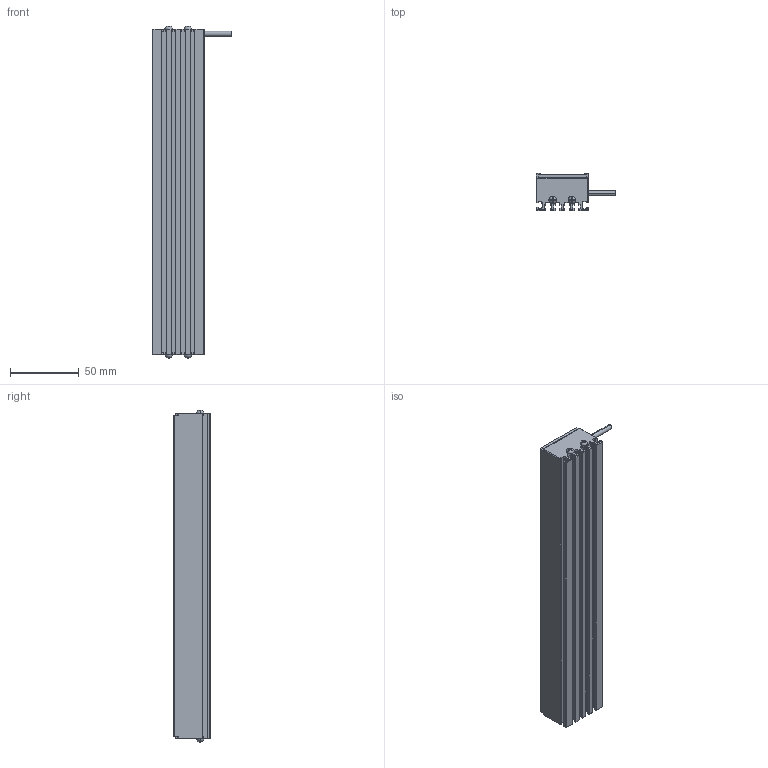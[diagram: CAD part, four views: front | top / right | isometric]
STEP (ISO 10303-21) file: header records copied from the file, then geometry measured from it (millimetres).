
FILE_DESCRIPTION((''),'2;1');
FILE_NAME('MV-LLDS-237-38_ASM','2020-12-29T',('Administrator'),(''),'PRO/ENGINEER BY PARAMETRIC TECHNOLOGY CORPORATION, 2010100','PRO/ENGINEER BY PARAMETRIC TECHNOLOGY CORPORATION, 2010100','');
FILE_SCHEMA(('CONFIG_CONTROL_DESIGN'));
Length unit declared in the file: millimetre
Products named in the file (3): BL-6_5_; M3-5_3; MV-LLDS-237-38_ASM
Assembly tree (5 placements, depth 2):
  MV-LLDS-237-38_ASM
    BL-6_5_
    M3-5_3  x4
Bounding box: 58 x 27 x 241.68 mm (x, y, z)
Volume: 198440.1 mm3; surface area: 57866.3 mm2
Topology: 5 solids, 13 shells, 351 faces, 940 edges, 608 vertices
Faces by surface type: plane 225, cylinder 78, cone 16, bspline 16, torus 8, sphere 8
Entity records: 8277 total; most frequent: CARTESIAN_POINT 1715, ORIENTED_EDGE 1350, DIRECTION 1320, EDGE_CURVE 685, VECTOR 520, LINE 520, VERTEX_POINT 449, AXIS2_PLACEMENT_3D 400
